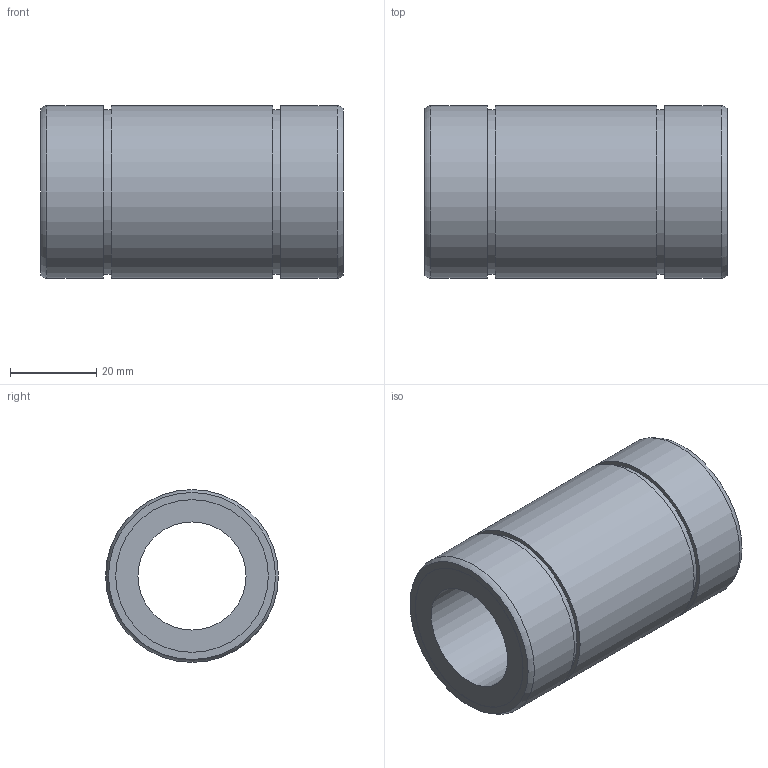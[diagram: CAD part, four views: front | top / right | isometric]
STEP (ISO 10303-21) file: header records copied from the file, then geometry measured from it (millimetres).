
FILE_DESCRIPTION((''),'2;1');
FILE_NAME('D:\製品 (図面)\カタログ用3D\メンテナンスフリー関連\STEP形式\L-MF\L25MF.stp','2010-06-01T16:13:23',('Tsuchiya'),(''),'Autodesk Inventor 10','Autodesk Inventor 10','');
FILE_SCHEMA(('AUTOMOTIVE_DESIGN { 1 0 10303 214 1 1 1 1 }'));
Length unit declared in the file: millimetre
Products named in the file (1): L25MF
Bounding box: 70 x 40 x 40 mm (x, y, z)
Volume: 52953.9 mm3; surface area: 16167.8 mm2
Topology: 1 solids, 1 shells, 18 faces, 28 edges, 18 vertices
Faces by surface type: cylinder 8, plane 8, torus 2
Full cylindrical faces by diameter (mm): 25 x1, 35.3 x2, 38 x2, 40 x3
Entity records: 391 total; most frequent: DIRECTION 74, CARTESIAN_POINT 55, AXIS2_PLACEMENT_3D 37, ORIENTED_EDGE 36, EDGE_LOOP 36, VERTEX_POINT 18, CIRCLE 18, EDGE_CURVE 18
